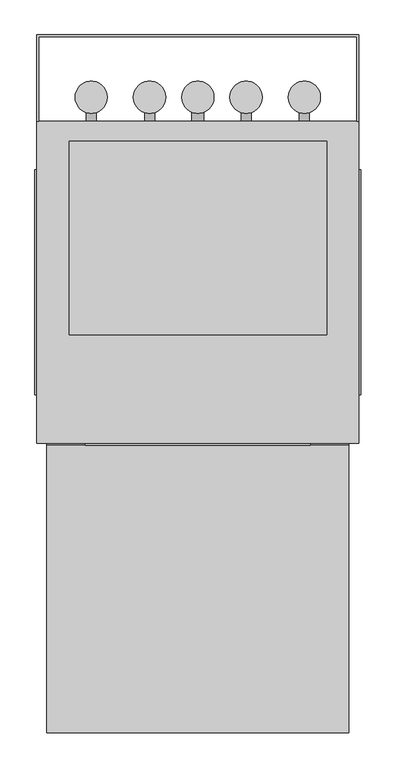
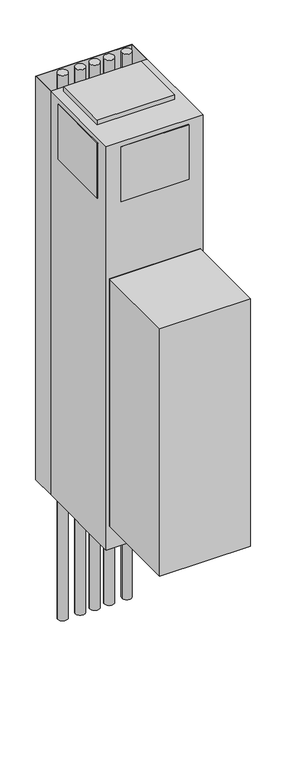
"""IFC4 building model written with IfcOpenShell, lengths in millimetres: proxy geometry, Exposed_Modular_Fan_Coil_Unit_-_MXY_-_IEC_-_4-Pipe_-_WithRisers_2022 : Size 06 - 277v/60Hz/1Ph - 4/1 Coil."""

from ifc_helpers import new_model, si_unit, point, frame, frame_2d, origin, origin_with_axes, place, context, project, spatial, polyline, circle_curve, trimmed, segment, composite_curve, outline, extrude, source, transform, mapped, element, save


def mechanical_equipment_489087ec(model_context):
    return source(origin(), model_context, "Body", "SweptSolid", [
        extrude(outline(polyline([(1356.1480703, 528.7118862), (1346.2, 560.8852728), (1488.3709244, 560.8852728), (1465.3489183, 528.7118862), (1356.1480703, 528.7118862)])), frame((0.0, -269.875, 0.0), z_axis=(0.0, 1.0, 0.0), x_axis=(0.0, 0.0, 1.0)), (0.0, 0.0, 1.0), 3.175),
        extrude(outline(polyline([(1435.1473557, 567.6436058), (1431.9449632, 593.725), (1461.1738042, 593.725), (1469.2382193, 567.6436058), (1435.1473557, 567.6436058)])), frame((0.0, -269.875, 0.0), z_axis=(0.0, 1.0, 0.0), x_axis=(0.0, 0.0, 1.0)), (0.0, 0.0, 1.0), 3.175),
        extrude(outline(polyline([(1383.2838288, 593.725), (1379.6183279, 567.6436058), (1346.2, 567.6436058), (1354.8342372, 593.725), (1383.2838288, 593.725)])), frame((0.0, -269.875, 0.0), z_axis=(0.0, 1.0, 0.0), x_axis=(0.0, 0.0, 1.0)), (0.0, 0.0, 1.0), 3.175),
        extrude(outline(polyline([(1422.5989903, 593.725), (1424.8808166, 567.6436058), (1388.9432681, 567.6436058), (1391.6845331, 593.725), (1422.5989903, 593.725)])), frame((0.0, -269.875, 0.0), z_axis=(0.0, 1.0, 0.0), x_axis=(0.0, 0.0, 1.0)), (0.0, 0.0, 1.0), 3.175),
        extrude(outline(composite_curve([segment(trimmed(circle_curve(frame_2d((238.125, 282.575)), 25.4), [point((263.525, 282.575))], [point((212.725, 282.575))], False, "CARTESIAN"), True, "CONTINUOUS"), segment(trimmed(circle_curve(frame_2d((238.125, 282.575)), 25.4), [point((212.725, 282.575))], [point((263.525, 282.575))], False, "CARTESIAN"), True, "CONTINUOUS")], self_intersect=False)), frame((0.0, 0.0, -736.6), z_axis=(0.0, 0.0, 1.0), x_axis=(1.0, 0.0, 0.0)), (0.0, 0.0, 1.0), 3022.6),
        extrude(outline(composite_curve([segment(trimmed(circle_curve(frame_2d((330.2, 282.575)), 25.4), [point((355.6, 282.575))], [point((304.8, 282.575))], False, "CARTESIAN"), True, "CONTINUOUS"), segment(trimmed(circle_curve(frame_2d((330.2, 282.575)), 25.4), [point((304.8, 282.575))], [point((355.6, 282.575))], False, "CARTESIAN"), True, "CONTINUOUS")], self_intersect=False)), frame((0.0, 0.0, -736.6), z_axis=(0.0, 0.0, 1.0), x_axis=(1.0, 0.0, 0.0)), (0.0, 0.0, 1.0), 3022.6),
        extrude(outline(composite_curve([segment(trimmed(circle_curve(frame_2d((406.4, 282.575)), 25.4), [point((431.8, 282.575))], [point((381.0, 282.575))], False, "CARTESIAN"), True, "CONTINUOUS"), segment(trimmed(circle_curve(frame_2d((406.4, 282.575)), 25.4), [point((381.0, 282.575))], [point((431.8, 282.575))], False, "CARTESIAN"), True, "CONTINUOUS")], self_intersect=False)), frame((0.0, 0.0, -736.6), z_axis=(0.0, 0.0, 1.0), x_axis=(1.0, 0.0, 0.0)), (0.0, 0.0, 1.0), 3022.6),
        extrude(outline(composite_curve([segment(trimmed(circle_curve(frame_2d((482.6, 282.575)), 25.4), [point((508.0, 282.575))], [point((457.2, 282.575))], False, "CARTESIAN"), True, "CONTINUOUS"), segment(trimmed(circle_curve(frame_2d((482.6, 282.575)), 25.4), [point((457.2, 282.575))], [point((508.0, 282.575))], False, "CARTESIAN"), True, "CONTINUOUS")], self_intersect=False)), frame((0.0, 0.0, -736.6), z_axis=(0.0, 0.0, 1.0), x_axis=(1.0, 0.0, 0.0)), (0.0, 0.0, 1.0), 3022.6),
        extrude(outline(composite_curve([segment(trimmed(circle_curve(frame_2d((574.675, 282.575)), 25.4), [point((600.075, 282.575))], [point((549.275, 282.575))], False, "CARTESIAN"), True, "CONTINUOUS"), segment(trimmed(circle_curve(frame_2d((574.675, 282.575)), 25.4), [point((549.275, 282.575))], [point((600.075, 282.575))], False, "CARTESIAN"), True, "CONTINUOUS")], self_intersect=False)), frame((0.0, 0.0, -736.6), z_axis=(0.0, 0.0, 1.0), x_axis=(1.0, 0.0, 0.0)), (0.0, 0.0, 1.0), 3022.6),
        extrude(outline(polyline([(644.525, -266.7), (644.525, -720.725), (168.275, -720.725), (168.275, -266.7), (644.525, -266.7)])), frame((0.0, 0.0, 127.0), z_axis=(0.0, 0.0, 1.0), x_axis=(1.0, 0.0, 0.0)), (0.0, 0.0, 1.0), 1371.6),
        extrude(outline(polyline([(152.4, 381.0), (660.4, 381.0), (660.4, 244.475), (657.225, 244.475), (657.225, 377.825), (155.575, 377.825), (155.575, 244.475), (152.4, 244.475), (152.4, 381.0)])), origin_with_axes(), (0.0, 0.0, 1.0), 2235.2),
        extrude(outline(composite_curve([segment(trimmed(circle_curve(frame_2d((990.6, 482.6)), 7.9375), [point((990.6, 490.5375))], [point((990.6, 474.6625))], False, "CARTESIAN"), True, "CONTINUOUS"), segment(trimmed(circle_curve(frame_2d((990.6, 482.6)), 7.9375), [point((990.6, 474.6625))], [point((990.6, 490.5375))], False, "CARTESIAN"), True, "CONTINUOUS")], self_intersect=False)), frame((0.0, 244.475, 0.0), z_axis=(0.0, 1.0, 0.0), x_axis=(0.0, 0.0, 1.0)), (0.0, 0.0, 1.0), 25.4),
        extrude(outline(composite_curve([segment(trimmed(circle_curve(frame_2d((990.6, 330.2)), 7.9375), [point((990.6, 338.1375))], [point((990.6, 322.2625))], False, "CARTESIAN"), True, "CONTINUOUS"), segment(trimmed(circle_curve(frame_2d((990.6, 330.2)), 7.9375), [point((990.6, 322.2625))], [point((990.6, 338.1375))], False, "CARTESIAN"), True, "CONTINUOUS")], self_intersect=False)), frame((0.0, 244.475, 0.0), z_axis=(0.0, 1.0, 0.0), x_axis=(0.0, 0.0, 1.0)), (0.0, 0.0, 1.0), 25.4),
        extrude(outline(composite_curve([segment(trimmed(circle_curve(frame_2d((76.2, 406.4)), 9.525), [point((76.2, 415.925))], [point((76.2, 396.875))], False, "CARTESIAN"), True, "CONTINUOUS"), segment(trimmed(circle_curve(frame_2d((76.2, 406.4)), 9.525), [point((76.2, 396.875))], [point((76.2, 415.925))], False, "CARTESIAN"), True, "CONTINUOUS")], self_intersect=False)), frame((0.0, 244.475, 0.0), z_axis=(0.0, 1.0, 0.0), x_axis=(0.0, 0.0, 1.0)), (0.0, 0.0, 1.0), 25.4),
        extrude(outline(composite_curve([segment(trimmed(circle_curve(frame_2d((990.6, 574.675)), 7.9375), [point((990.6, 582.6125))], [point((990.6, 566.7375))], False, "CARTESIAN"), True, "CONTINUOUS"), segment(trimmed(circle_curve(frame_2d((990.6, 574.675)), 7.9375), [point((990.6, 566.7375))], [point((990.6, 582.6125))], False, "CARTESIAN"), True, "CONTINUOUS")], self_intersect=False)), frame((0.0, 244.475, 0.0), z_axis=(0.0, 1.0, 0.0), x_axis=(0.0, 0.0, 1.0)), (0.0, 0.0, 1.0), 25.4),
        extrude(outline(composite_curve([segment(trimmed(circle_curve(frame_2d((990.6, 238.125)), 7.9375), [point((990.6, 246.0625))], [point((990.6, 230.1875))], False, "CARTESIAN"), True, "CONTINUOUS"), segment(trimmed(circle_curve(frame_2d((990.6, 238.125)), 7.9375), [point((990.6, 230.1875))], [point((990.6, 246.0625))], False, "CARTESIAN"), True, "CONTINUOUS")], self_intersect=False)), frame((0.0, 244.475, 0.0), z_axis=(0.0, 1.0, 0.0), x_axis=(0.0, 0.0, 1.0)), (0.0, 0.0, 1.0), 25.4),
        extrude(outline(polyline([(644.525, -266.7), (168.275, -266.7), (168.275, -263.525), (644.525, -263.525), (644.525, -266.7)])), frame((0.0, 0.0, 127.0), z_axis=(0.0, 0.0, 1.0), x_axis=(1.0, 0.0, 0.0)), (0.0, 0.0, 1.0), 1371.6),
        extrude(outline(polyline([(663.575, 168.275), (663.575, -187.325), (660.4, -187.325), (660.4, 168.275), (663.575, 168.275)])), frame((0.0, 0.0, 1905.0), z_axis=(0.0, 0.0, 1.0), x_axis=(1.0, 0.0, 0.0)), (0.0, 0.0, 1.0), 304.8),
        extrude(outline(polyline([(149.225, -187.325), (149.225, 168.275), (152.4, 168.275), (152.4, -187.325), (149.225, -187.325)])), frame((0.0, 0.0, 1905.0), z_axis=(0.0, 0.0, 1.0), x_axis=(1.0, 0.0, 0.0)), (0.0, 0.0, 1.0), 304.8),
        extrude(outline(polyline([(584.2, -266.7), (228.6, -266.7), (228.6, -263.525), (584.2, -263.525), (584.2, -266.7)])), frame((0.0, 0.0, 1905.0), z_axis=(0.0, 0.0, 1.0), x_axis=(1.0, 0.0, 0.0)), (0.0, 0.0, 1.0), 304.8),
        extrude(outline(polyline([(609.6, 212.725), (609.6, -92.075), (203.2, -92.075), (203.2, 212.725), (609.6, 212.725)])), frame((0.0, 0.0, 2235.2), z_axis=(0.0, 0.0, 1.0), x_axis=(1.0, 0.0, 0.0)), (0.0, 0.0, 1.0), 25.4),
        extrude(outline(polyline([(660.4, 244.475), (660.4, -263.525), (152.4, -263.525), (152.4, 244.475), (660.4, 244.475)])), origin_with_axes(), (0.0, 0.0, 1.0), 2235.2),
    ])


if __name__ == "__main__":
    model = new_model("IFC4")
    model_context = context("Model", 3, world=origin())
    ifc_project = project(units=[si_unit("LENGTHUNIT", "METRE", prefix="MILLI")], contexts=[model_context])
    site = spatial("IfcSite", under=ifc_project)
    building = spatial("IfcBuilding", under=site)
    placement = place(None, origin())
    mechanical_equipment_shape = mechanical_equipment_489087ec(model_context)
    element("IfcBuildingElementProxy", 1, Name="Exposed_Modular_Fan_Coil_Unit_-_MXY_-_IEC_-_4-Pipe_-_WithRisers_2022 : Size 06 - 277v/60Hz/1Ph - 4/1 Coil", ObjectType="Exposed_Modular_Fan_Coil_Unit_-_MXY_-_IEC_-_4-Pipe_-_WithRisers_2022 : Size 06 - 277v/60Hz/1Ph - 4/1 Coil", at=placement, inside=building, context=model_context, shape_type="MappedRepresentation", body=[
        mapped(mechanical_equipment_shape, transform((0.0, 0.0, 0.0), x_axis=(1.0, 0.0, 0.0), y_axis=(0.0, 1.0, 0.0), z_axis=(0.0, 0.0, 1.0))),
    ])
    save(model, "model.ifc")
